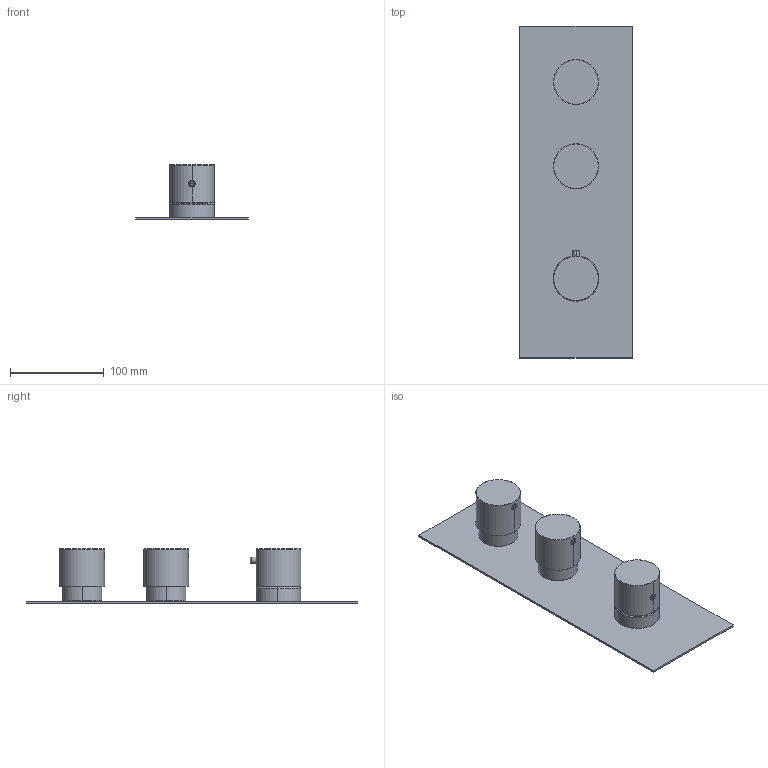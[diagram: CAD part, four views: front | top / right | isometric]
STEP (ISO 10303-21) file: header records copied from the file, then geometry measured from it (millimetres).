
FILE_DESCRIPTION((''),'2;1');
FILE_NAME('F3869X2_2012_SW0001','2013-02-19T',('ivanv'),(''),'PRO/ENGINEER BY PARAMETRIC TECHNOLOGY CORPORATION, 2012130','PRO/ENGINEER BY PARAMETRIC TECHNOLOGY CORPORATION, 2012130','');
FILE_SCHEMA(('CONFIG_CONTROL_DESIGN'));
Length unit declared in the file: millimetre
Products named in the file (1): F3869X2_2012_SW0001
Bounding box: 120 x 355 x 58 mm (x, y, z)
Volume: 284290.6 mm3; surface area: 131882.8 mm2
Topology: 3 solids, 4 shells, 301 faces, 821 edges, 524 vertices
Faces by surface type: plane 149, cylinder 96, cone 36, torus 14, sphere 6
Entity records: 11332 total; most frequent: CARTESIAN_POINT 3819, ORIENTED_EDGE 1626, DIRECTION 1514, EDGE_CURVE 813, AXIS2_PLACEMENT_3D 579, VERTEX_POINT 524, VECTOR 356, LINE 356
